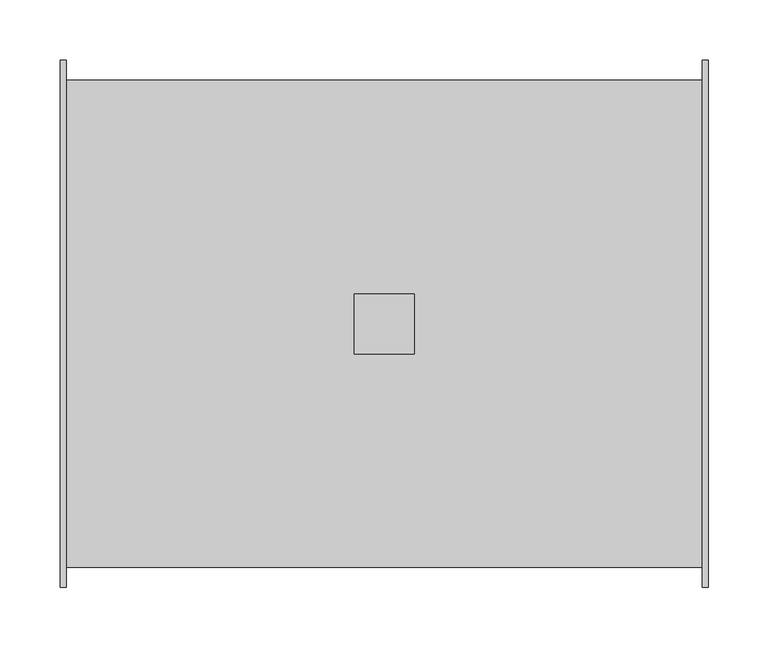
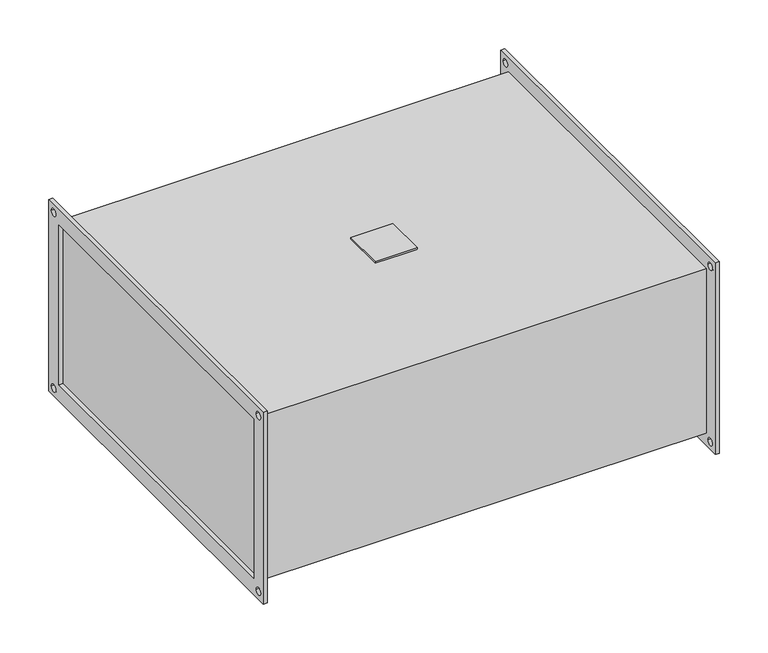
"""IFC4 building model written with IfcOpenShell, lengths in millimetres: damper geometry, KORF_Фильтр_Карманный_FKR : FKR 40-20  EU5."""

from ifc_helpers import new_model, si_unit, point, frame, frame_2d, origin, place, context, project, spatial, polyline, circle_curve, trimmed, segment, composite_curve, outline, extrude, source, transform, mapped, element, save


def damper_105bf92a(model_context):
    return source(origin(), model_context, "Body", "SweptSolid", [
        extrude(outline(polyline([(295.0, 25.0), (295.0, -25.0), (245.0, -25.0), (245.0, 25.0), (295.0, 25.0)])), frame((0.0, 0.0, 103.0), z_axis=(0.0, 0.0, 1.0), x_axis=(1.0, 0.0, 0.0)), (0.0, 0.0, 1.0), 2.0),
        extrude(outline(polyline([(-220.0, 120.0), (220.0, 120.0), (220.0, -120.0), (-220.0, -120.0), (-220.0, 120.0)]), holes=[polyline([(-200.0, 100.0), (-200.0, -100.0), (200.0, -100.0), (200.0, 100.0), (-200.0, 100.0)]), composite_curve([segment(trimmed(circle_curve(frame_2d((210.0, 110.0)), 4.5), [point((205.5, 110.0))], [point((214.5, 110.0))], True, "CARTESIAN"), True, "CONTINUOUS"), segment(trimmed(circle_curve(frame_2d((210.0, 110.0)), 4.5), [point((214.5, 110.0))], [point((205.5, 110.0))], True, "CARTESIAN"), True, "CONTINUOUS")], self_intersect=False), composite_curve([segment(trimmed(circle_curve(frame_2d((-210.0, 110.0)), 4.5), [point((-214.5, 110.0))], [point((-205.5, 110.0))], True, "CARTESIAN"), True, "CONTINUOUS"), segment(trimmed(circle_curve(frame_2d((-210.0, 110.0)), 4.5), [point((-205.5, 110.0))], [point((-214.5, 110.0))], True, "CARTESIAN"), True, "CONTINUOUS")], self_intersect=False), composite_curve([segment(trimmed(circle_curve(frame_2d((-210.0, -110.0)), 4.5), [point((-214.5, -110.0))], [point((-205.5, -110.0))], True, "CARTESIAN"), True, "CONTINUOUS"), segment(trimmed(circle_curve(frame_2d((-210.0, -110.0)), 4.5), [point((-205.5, -110.0))], [point((-214.5, -110.0))], True, "CARTESIAN"), True, "CONTINUOUS")], self_intersect=False), composite_curve([segment(trimmed(circle_curve(frame_2d((210.0, -110.0)), 4.5), [point((205.5, -110.0))], [point((214.5, -110.0))], True, "CARTESIAN"), True, "CONTINUOUS"), segment(trimmed(circle_curve(frame_2d((210.0, -110.0)), 4.5), [point((214.5, -110.0))], [point((205.5, -110.0))], True, "CARTESIAN"), True, "CONTINUOUS")], self_intersect=False)]), frame((535.0, 0.0, 0.0), z_axis=(1.0, 0.0, 0.0), x_axis=(0.0, 1.0, 0.0)), (0.0, 0.0, 1.0), 5.0),
        extrude(outline(polyline([(-220.0, 120.0), (220.0, 120.0), (220.0, -120.0), (-220.0, -120.0), (-220.0, 120.0)]), holes=[polyline([(-200.0, 100.0), (-200.0, -100.0), (200.0, -100.0), (200.0, 100.0), (-200.0, 100.0)]), composite_curve([segment(trimmed(circle_curve(frame_2d((210.0, 110.0)), 4.5), [point((205.5, 110.0))], [point((214.5, 110.0))], True, "CARTESIAN"), True, "CONTINUOUS"), segment(trimmed(circle_curve(frame_2d((210.0, 110.0)), 4.5), [point((214.5, 110.0))], [point((205.5, 110.0))], True, "CARTESIAN"), True, "CONTINUOUS")], self_intersect=False), composite_curve([segment(trimmed(circle_curve(frame_2d((-210.0, 110.0)), 4.5), [point((-214.5, 110.0))], [point((-205.5, 110.0))], True, "CARTESIAN"), True, "CONTINUOUS"), segment(trimmed(circle_curve(frame_2d((-210.0, 110.0)), 4.5), [point((-205.5, 110.0))], [point((-214.5, 110.0))], True, "CARTESIAN"), True, "CONTINUOUS")], self_intersect=False), composite_curve([segment(trimmed(circle_curve(frame_2d((-210.0, -110.0)), 4.5), [point((-214.5, -110.0))], [point((-205.5, -110.0))], True, "CARTESIAN"), True, "CONTINUOUS"), segment(trimmed(circle_curve(frame_2d((-210.0, -110.0)), 4.5), [point((-205.5, -110.0))], [point((-214.5, -110.0))], True, "CARTESIAN"), True, "CONTINUOUS")], self_intersect=False), composite_curve([segment(trimmed(circle_curve(frame_2d((210.0, -110.0)), 4.5), [point((205.5, -110.0))], [point((214.5, -110.0))], True, "CARTESIAN"), True, "CONTINUOUS"), segment(trimmed(circle_curve(frame_2d((210.0, -110.0)), 4.5), [point((214.5, -110.0))], [point((205.5, -110.0))], True, "CARTESIAN"), True, "CONTINUOUS")], self_intersect=False)]), frame((0.0, 0.0, 0.0), z_axis=(1.0, 0.0, 0.0), x_axis=(0.0, 1.0, 0.0)), (0.0, 0.0, 1.0), 5.0),
        extrude(outline(polyline([(535.0, 203.0), (535.0, -203.0), (5.0, -203.0), (5.0, 203.0), (535.0, 203.0)])), frame((0.0, 0.0, -103.0), z_axis=(0.0, 0.0, 1.0), x_axis=(1.0, 0.0, 0.0)), (0.0, 0.0, 1.0), 206.0),
    ])


if __name__ == "__main__":
    model = new_model("IFC4")
    model_context = context("Model", 3, world=origin())
    ifc_project = project(units=[si_unit("LENGTHUNIT", "METRE", prefix="MILLI")], contexts=[model_context])
    site = spatial("IfcSite", under=ifc_project)
    building = spatial("IfcBuilding", under=site)
    placement = place(None, origin())
    damper_shape = damper_105bf92a(model_context)
    element("IfcDamper", 1, ObjectType="KORF_Фильтр_Карманный_FKR : FKR 40-20  EU5", at=placement, inside=building, context=model_context, shape_type="MappedRepresentation", body=[
        mapped(damper_shape, transform((0.0, 0.0, 0.0), x_axis=(1.0, 0.0, 0.0), y_axis=(0.0, 1.0, 0.0), z_axis=(0.0, 0.0, 1.0))),
    ])
    save(model, "model.ifc")
